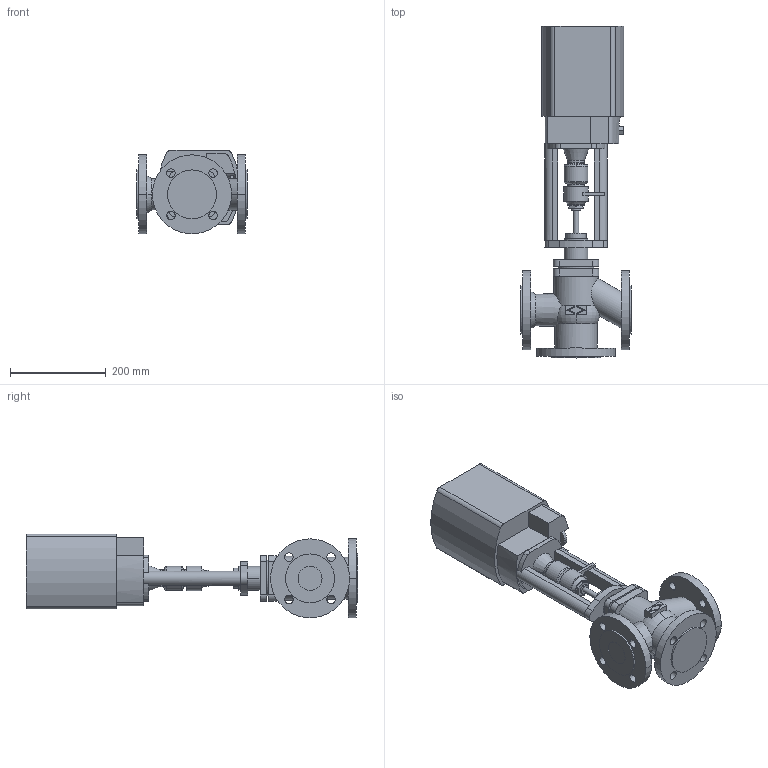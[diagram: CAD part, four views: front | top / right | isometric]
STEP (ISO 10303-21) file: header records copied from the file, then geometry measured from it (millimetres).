
FILE_DESCRIPTION( ( '' ), '1' );
FILE_NAME( 'F:/DE-SHS/TB/OR/04-Sonstiges/daten/files_3d/450-PREMIO-Plus-2G/c000006511.stp', '2017-02-22T12:48:36', ( '' ), ( '' ), ' ', ' ', ' ' );
FILE_SCHEMA( ( 'CONFIG_CONTROL_DESIGN' ) );
Length unit declared in the file: millimetre
Products named in the file (2): 1; 2
Bounding box: 230 x 693 x 174.8 mm (x, y, z)
Volume: 9147528.1 mm3; surface area: 529352.3 mm2
Topology: 2 solids, 2 shells, 247 faces, 639 edges, 422 vertices
Faces by surface type: cylinder 112, plane 112, cone 12, torus 11
Entity records: 8304 total; most frequent: CARTESIAN_POINT 1854, DIRECTION 1420, ORIENTED_EDGE 1278, EDGE_CURVE 639, AXIS2_PLACEMENT_3D 548, VERTEX_POINT 422, LINE 324, VECTOR 324
